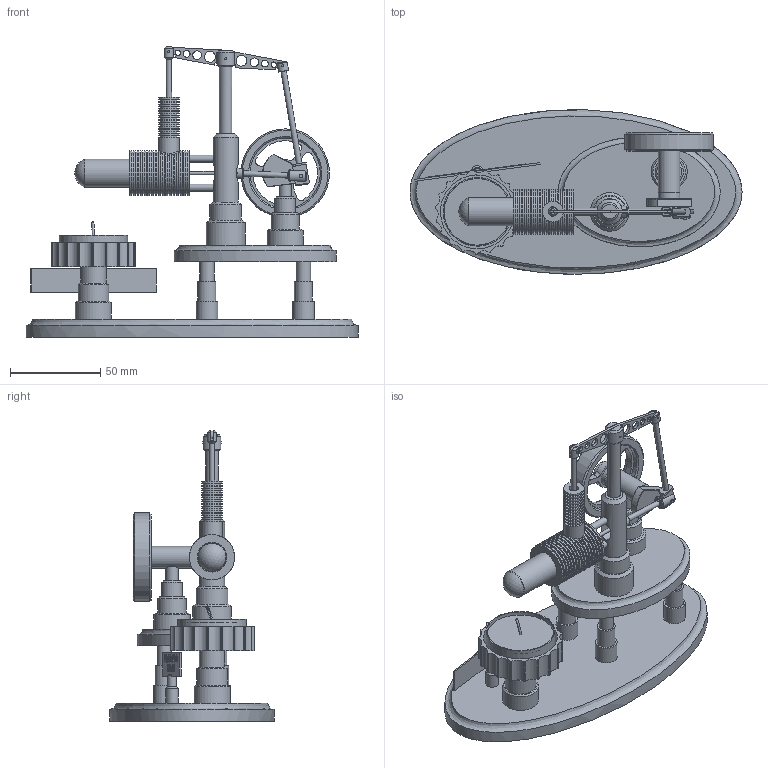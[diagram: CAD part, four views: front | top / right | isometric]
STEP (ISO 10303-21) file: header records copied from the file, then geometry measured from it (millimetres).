
FILE_DESCRIPTION((''),'2;1');
FILE_NAME('C:\Users\MANOS\Documents\Inventor\Beam stirling engine\Beam stirling Engine.stp','2012-04-05T19:53:43',('MANOS'),(''),'Autodesk Inventor 2012','Autodesk Inventor 2012','');
FILE_SCHEMA(('AUTOMOTIVE_DESIGN { 1 0 10303 214 1 1 1 1 }'));
Products named in the file (44): Beam stirling Engine; lower platform; platform pillar; upper platform; main shaft support pillar; center pillar; main shaft bearing; main shaft; flywheel; crank; crank rod; tumbler plate; short support stud; long support stud; main cylinder; power cylinder; power piston; power piston conrod; displacer bearing; displacer; displacer cap; displacer rod end; displacer rod; syringe; power piston rocker arm; power piston rocker arm#2; Bolted Connection; DIN 7991 M4x16; candle holder; candle pillar bottom; candle pillar top section; TEA CANDLE; TEA CANDLE SHELL; WAX; WICK; pin; bearings; candle pillar; DIN 3771 hydraulic and pneumatic static 10,6 x 1,8 - N - NBR 70; DIN 3771 hydraulic and pneumatic static 15 x 1,8 - N - NBR 70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
Assembly tree (57 placements, depth 3):
  Beam stirling Engine
    lower platform
    platform pillar  x4
    upper platform
    main shaft support pillar
    center pillar
    main shaft bearing
    main shaft
    flywheel
    crank
    crank rod
    tumbler plate
    short support stud
    long support stud
    main cylinder
    power cylinder
    power piston
    power piston conrod
    displacer bearing
    displacer
    displacer cap
    displacer rod end
    displacer rod
    syringe
    power piston rocker arm
    power piston rocker arm#2
    Bolted Connection
      DIN 7991 M4x16  x4
    candle holder
    candle pillar bottom
    candle pillar top section
    TEA CANDLE
      TEA CANDLE SHELL
      WAX
      WICK
    pin  x4
    bearings  x2
    candle pillar
    DIN 3771 hydraulic and pneumatic static 10,6 x 1,8 - N - NBR 70
    DIN 3771 hydraulic and pneumatic static 15 x 1,8 - N - NBR 70
    Bolted Connection
      DIN 7991 M4x16  x2
    plate
    Bolted Connection
      DIN 7991 M4x16
    Bolted Connection3_MIR
      DIN 7991 M4x16
Bounding box: 184.2 x 91.39 x 161.72 mm (x, y, z)
Volume: 255072.4 mm3; surface area: 113328.8 mm2
Topology: 52 solids, 52 shells, 1299 faces, 3055 edges, 2009 vertices
Faces by surface type: plane 627, cylinder 340, bspline 233, cone 78, torus 17, sphere 4
Full cylindrical faces by diameter (mm): 1.1 x19, 2 x9, 2.459 x2, 2.5 x1, 3 x9, 3.242 x10, 3.8 x2, 4 x25, 4.134 x2, 4.8 x3, 4.917 x2, 5 x9, 6 x9, 6.8 x1, 7 x4, 7.4 x2, 8 x12, 9.5 x11, 10 x8, 11.4 x2, 11.5 x16, 11.8 x1, 12 x8, 12.4 x2, 13 x1, 14 x3, 14.5 x1, 14.8 x1, 15.4 x1, 15.6 x1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
Entity records: 36739 total; most frequent: CARTESIAN_POINT 10568, ORIENTED_EDGE 4978, DIRECTION 4653, EDGE_CURVE 2489, VERTEX_POINT 1782, AXIS2_PLACEMENT_3D 1693, EDGE_LOOP 1625, VECTOR 1267
